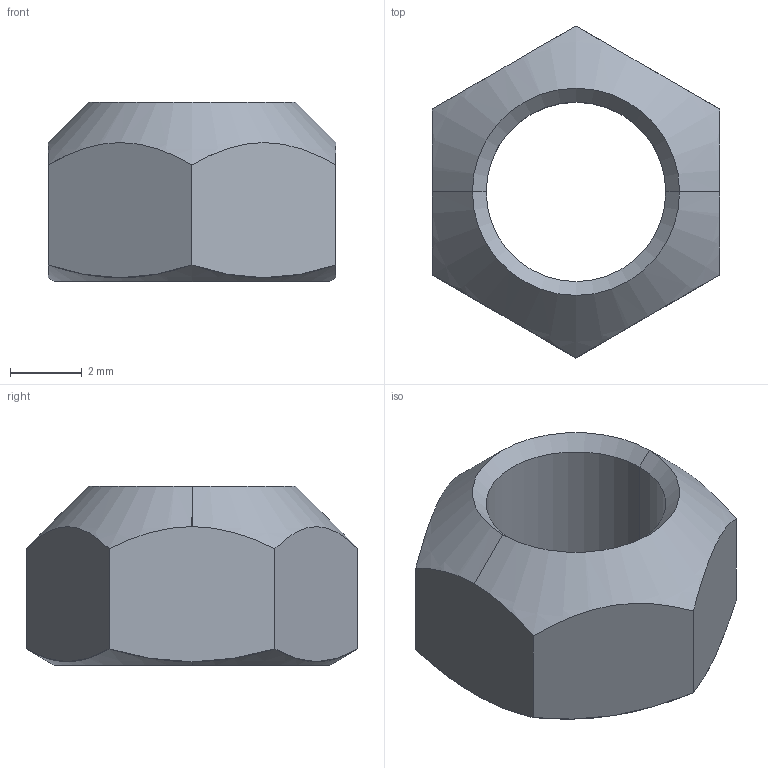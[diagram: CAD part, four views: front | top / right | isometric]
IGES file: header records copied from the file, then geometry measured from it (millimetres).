
Start section: SolidWorks IGES file using analytic representation for surfaces
Global section: file name: C:\Users\liam_\OneDrive\Documents\WORK\Work for WixRoyd\Job Files\J-00021 - Matt Davis CAD Checking\04. CAD Drawings\automotion20190729\P0308.ZP_v2\P0308.ZP_v2_20190913_IGES\P0308.050-ZP.igs; native system: SolidWorks 2017; preprocessor: SolidWorks 2017; author: liam_; date: 190913.213821; units: millimetre
Bounding box: 8 x 9.24 x 4.98 mm (x, y, z)
Surface area: 251.7 mm2 (no closed solid volume)
Topology: 0 solids, 0 shells, 17 faces, 244 edges, 244 vertices
Faces by surface type: revolution 10, bspline 7
